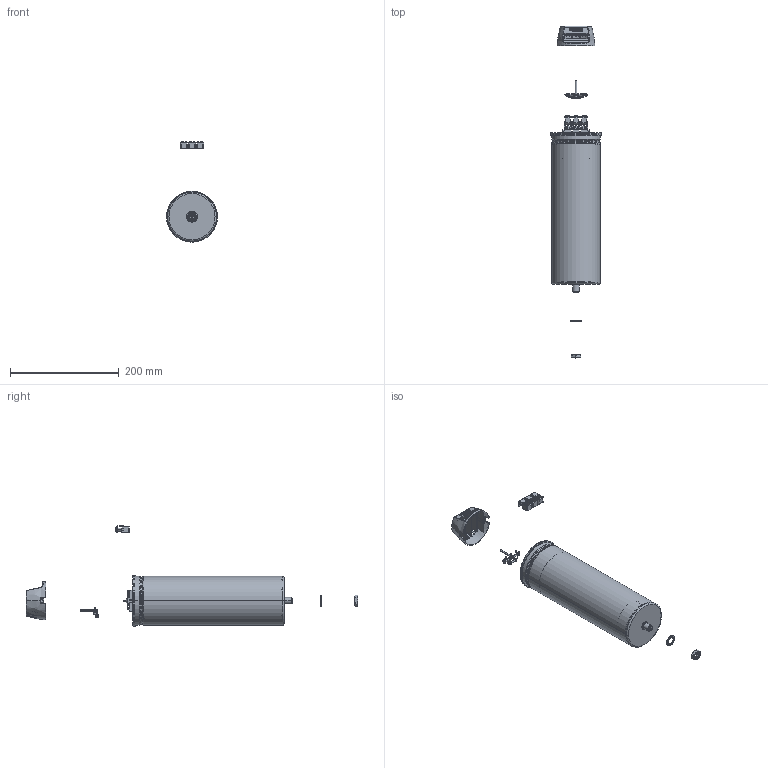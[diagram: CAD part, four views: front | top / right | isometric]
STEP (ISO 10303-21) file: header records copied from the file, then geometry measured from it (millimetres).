
FILE_DESCRIPTION((''),'2;1');
FILE_NAME('HRB8566900_ASM','2017-09-29T',('SESA147510'),('Schneider-Electric'),'PRO/ENGINEER BY PARAMETRIC TECHNOLOGY CORPORATION, 2015440','PRO/ENGINEER BY PARAMETRIC TECHNOLOGY CORPORATION, 2015440','');
FILE_SCHEMA(('CONFIG_CONTROL_DESIGN'));
Products named in the file (41): BAC08001_INST2; BBC01001; CCR02101; CZFXXX_90X278; CPFXXX_90X278; HRB8567400_ASM; CPG00501; BTC02901; BTC02801; BHW23301_INST1; BHW14301_INST4; BHW15001; BHW25601; BHW15101; BHW14701_INST1; EAV1691300_INST1__ASM; CCL00301_INST90X278_1; CCL00301_INST90X278; CCL04901_INST90X278_ASM; XLW01501; CCL00401_INST90X278_1; CCL00401_INST90X278; CCL08801_INST90X278_ASM; CCL00601_INST90X278_1; CCL00601_INST90X278; CCL08901_INST90X278_ASM; BHW18001_INST_12MM; HRB8567100_ASM; HUA26827; HUA26805; BHW00201; BHW00401; BHW01001; BHW15301_ASM; HUA26759_INST8; BHW18001; HUA26759_INST9; HUA26759_INST10; BHW23701_ASM; EAV1882001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
Assembly tree (55 placements, depth 4):
  HRB8566900_ASM
    HRB8567100_ASM
      BAC08001_INST2
      BBC01001
      HRB8567400_ASM  x3
        CCR02101
        CZFXXX_90X278
        CPFXXX_90X278
      CPG00501  x2
      BTC02901
      BTC02801
      EAV1691300_INST1__ASM
        BHW23301_INST1
        BHW14301_INST4  x3
        BHW15001
        BHW25601  x3
        BHW15101
        BHW14701_INST1  x3
      CCL04901_INST90X278_ASM
        CCL00301_INST90X278_1
        CCL00301_INST90X278
      XLW01501  x3
      CCL08801_INST90X278_ASM
        CCL00401_INST90X278_1
        CCL00401_INST90X278
      CCL08901_INST90X278_ASM
        CCL00601_INST90X278_1
        CCL00601_INST90X278
      BHW18001_INST_12MM  x3
    HUA26827
    HUA26805
    BHW15301_ASM  x3
      BHW00201
      BHW00401
      BHW01001
    BHW23701_ASM
      HUA26759_INST8
      BHW18001
      HUA26759_INST9
      HUA26759_INST10
    EAV1882001
Bounding box: 93.44 x 609.68 x 184.28 mm (x, y, z)
Volume: 1212635.6 mm3; surface area: 575563.6 mm2
Topology: 55 solids, 62 shells, 4401 faces, 11601 edges, 7422 vertices
Faces by surface type: plane 2403, cylinder 779, bspline 405, cone 359, extrusion 261, torus 190, sphere 4
Entity records: 165918 total; most frequent: CARTESIAN_POINT 77100, ORIENTED_EDGE 19212, DIRECTION 16557, EDGE_CURVE 9612, VECTOR 6301, VERTEX_POINT 6144, LINE 6040, AXIS2_PLACEMENT_3D 5128
